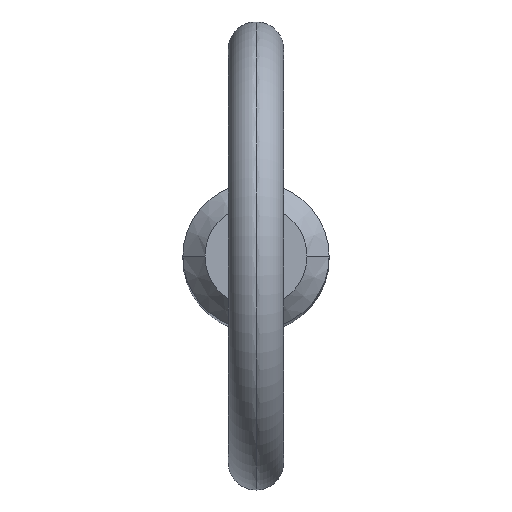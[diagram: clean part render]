
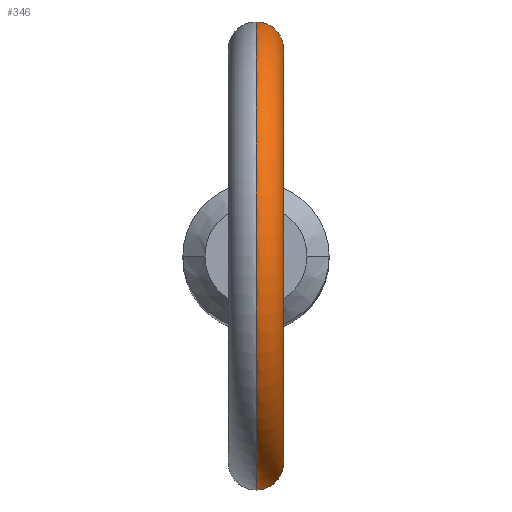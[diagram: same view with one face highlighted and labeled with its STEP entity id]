
A CAD part, top view. The second image highlights one B-rep face of the part: STEP entity #346.
In plain terms, the highlighted toroidal (fillet/blend) face has major radius 11.2 mm and minor radius 1.5 mm.
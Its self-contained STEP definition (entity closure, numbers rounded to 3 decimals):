
#10 = CARTESIAN_POINT ( 'NONE',  ( 0.41, 3.948, 69.274 ) ) ;
#23 = CARTESIAN_POINT ( 'NONE',  ( 0., 0., 81.3 ) ) ;
#32 = AXIS2_PLACEMENT_3D ( 'NONE', #163, #513, #477 ) ;
#35 = EDGE_CURVE ( 'NONE', #378, #371, #288, .T. ) ;
#45 = CARTESIAN_POINT ( 'NONE',  ( 0.782, -3.888, 69.437 ) ) ;
#53 = CARTESIAN_POINT ( 'NONE',  ( 1.236, 3.77, 69.829 ) ) ;
#59 = DIRECTION ( 'NONE',  ( 1., 0., 0. ) ) ;
#83 = ORIENTED_EDGE ( 'NONE', *, *, #148, .F. ) ;
#85 = CARTESIAN_POINT ( 'NONE',  ( 0.205, -3.965, 69.235 ) ) ;
#90 = CARTESIAN_POINT ( 'NONE',  ( 0.498, -3.935, 72.344 ) ) ;
#94 = CARTESIAN_POINT ( 'NONE',  ( 1.026, 3.831, 69.613 ) ) ;
#98 = CARTESIAN_POINT ( 'NONE',  ( 1.441, 3.695, 71.208 ) ) ;
#126 = CARTESIAN_POINT ( 'NONE',  ( 0.404, -3.946, 72.382 ) ) ;
#131 = CARTESIAN_POINT ( 'NONE',  ( 0.925, -3.858, 72.068 ) ) ;
#137 = EDGE_CURVE ( 'NONE', #371, #240, #426, .T. ) ;
#148 = EDGE_CURVE ( 'NONE', #214, #378, #491, .T. ) ;
#163 = CARTESIAN_POINT ( 'NONE',  ( 0., 0., 81.3 ) ) ;
#168 = CARTESIAN_POINT ( 'NONE',  ( 1.503, -3.669, 70.699 ) ) ;
#169 = CARTESIAN_POINT ( 'NONE',  ( 1.499, -3.671, 70.597 ) ) ;
#172 = TOROIDAL_SURFACE ( 'NONE', #296, 11.2, 1.5 ) ;
#174 = CARTESIAN_POINT ( 'NONE',  ( 1.499, 3.671, 70.594 ) ) ;
#181 = CARTESIAN_POINT ( 'NONE',  ( 0., 3.965, 72.447 ) ) ;
#200 = EDGE_CURVE ( 'NONE', #214, #240, #239, .T. ) ;
#205 = CARTESIAN_POINT ( 'NONE',  ( 1.291, -3.75, 71.583 ) ) ;
#208 = EDGE_LOOP ( 'NONE', ( #83, #447, #351, #221 ) ) ;
#209 = CARTESIAN_POINT ( 'NONE',  ( 1.471, -3.682, 70.394 ) ) ;
#212 = CARTESIAN_POINT ( 'NONE',  ( 1.291, 3.75, 71.584 ) ) ;
#214 = VERTEX_POINT ( 'NONE', #376 ) ;
#215 = CARTESIAN_POINT ( 'NONE',  ( 0.927, 3.858, 72.067 ) ) ;
#221 = ORIENTED_EDGE ( 'NONE', *, *, #35, .F. ) ;
#239 = CIRCLE ( 'NONE', #366, 12.7 ) ;
#240 = VERTEX_POINT ( 'NONE', #295 ) ;
#246 = CARTESIAN_POINT ( 'NONE',  ( 0.409, -3.948, 69.274 ) ) ;
#247 = FACE_OUTER_BOUND ( 'NONE', #208, .T. ) ;
#248 = CARTESIAN_POINT ( 'NONE',  ( 0., 3.965, 69.235 ) ) ;
#251 = CARTESIAN_POINT ( 'NONE',  ( 1.346, -3.73, 70.008 ) ) ;
#253 = CARTESIAN_POINT ( 'NONE',  ( 1.344, 3.731, 70.003 ) ) ;
#254 = CARTESIAN_POINT ( 'NONE',  ( 0.782, 3.888, 69.437 ) ) ;
#258 = CARTESIAN_POINT ( 'NONE',  ( 1.47, 3.682, 70.392 ) ) ;
#265 = CARTESIAN_POINT ( 'NONE',  ( 0., -3.965, 72.447 ) ) ;
#283 = CARTESIAN_POINT ( 'NONE',  ( 1.237, -3.77, 69.831 ) ) ;
#284 = CARTESIAN_POINT ( 'NONE',  ( 1.479, -3.679, 71.007 ) ) ;
#285 = CARTESIAN_POINT ( 'NONE',  ( 1.404, -3.708, 71.301 ) ) ;
#287 = CARTESIAN_POINT ( 'NONE',  ( 0., -3.965, 69.235 ) ) ;
#288 = CIRCLE ( 'NONE', #32, 9.7 ) ;
#290 = CARTESIAN_POINT ( 'NONE',  ( 0.77, -3.894, 72.2 ) ) ;
#291 = DIRECTION ( 'NONE',  ( 1., 0., 0. ) ) ;
#292 = CARTESIAN_POINT ( 'NONE',  ( 1.503, 3.669, 70.698 ) ) ;
#295 = CARTESIAN_POINT ( 'NONE',  ( 0., -3.965, 69.235 ) ) ;
#296 = AXIS2_PLACEMENT_3D ( 'NONE', #23, #59, #381 ) ;
#297 = CARTESIAN_POINT ( 'NONE',  ( 0.769, 3.894, 72.201 ) ) ;
#320 = CARTESIAN_POINT ( 'NONE',  ( 0.949, -3.851, 69.549 ) ) ;
#331 = CARTESIAN_POINT ( 'NONE',  ( 0., 0., 81.3 ) ) ;
#332 = CARTESIAN_POINT ( 'NONE',  ( 0.206, 3.965, 72.447 ) ) ;
#346 = ADVANCED_FACE ( 'NONE', ( #247 ), #172, .T. ) ;
#351 = ORIENTED_EDGE ( 'NONE', *, *, #137, .F. ) ;
#361 = CARTESIAN_POINT ( 'NONE',  ( 1.434, -3.697, 71.205 ) ) ;
#365 = CARTESIAN_POINT ( 'NONE',  ( 0.204, 3.965, 69.235 ) ) ;
#366 = AXIS2_PLACEMENT_3D ( 'NONE', #331, #291, #375 ) ;
#370 = CARTESIAN_POINT ( 'NONE',  ( 0., -3.965, 72.447 ) ) ;
#371 = VERTEX_POINT ( 'NONE', #265 ) ;
#375 = DIRECTION ( 'NONE',  ( 0., 0., -1. ) ) ;
#376 = CARTESIAN_POINT ( 'NONE',  ( 0., 3.965, 69.235 ) ) ;
#378 = VERTEX_POINT ( 'NONE', #181 ) ;
#381 = DIRECTION ( 'NONE',  ( 0., 0., -1. ) ) ;
#407 = CARTESIAN_POINT ( 'NONE',  ( 1.493, -3.673, 70.904 ) ) ;
#408 = CARTESIAN_POINT ( 'NONE',  ( 0.205, -3.961, 72.434 ) ) ;
#409 = CARTESIAN_POINT ( 'NONE',  ( 0.949, 3.851, 69.549 ) ) ;
#414 = CARTESIAN_POINT ( 'NONE',  ( 0.411, 3.948, 72.391 ) ) ;
#418 = CARTESIAN_POINT ( 'NONE',  ( 0., 3.965, 72.447 ) ) ;
#426 = B_SPLINE_CURVE_WITH_KNOTS ( 'NONE', 3,
 ( #370, #443, #408, #126, #90, #290, #131, #488, #205, #285, #361, #284, #407, #168, #169, #209, #446, #251, #283, #438, #320, #45, #479, #246, #85, #287 ),
 .UNSPECIFIED., .F., .F.,
 ( 4, 2, 2, 2, 2, 2, 2, 2, 2, 2, 2, 2, 4 ),
 ( 0.004, 0.005, 0.005, 0.005, 0.006, 0.006, 0.007, 0.007, 0.007, 0.008, 0.008, 0.008, 0.009 ),
 .UNSPECIFIED. ) ;
#438 = CARTESIAN_POINT ( 'NONE',  ( 1.028, -3.83, 69.615 ) ) ;
#443 = CARTESIAN_POINT ( 'NONE',  ( 0.102, -3.965, 72.447 ) ) ;
#446 = CARTESIAN_POINT ( 'NONE',  ( 1.447, -3.692, 70.293 ) ) ;
#447 = ORIENTED_EDGE ( 'NONE', *, *, #200, .T. ) ;
#449 = CARTESIAN_POINT ( 'NONE',  ( 1.488, 3.675, 71.005 ) ) ;
#450 = CARTESIAN_POINT ( 'NONE',  ( 1.447, 3.692, 70.293 ) ) ;
#477 = DIRECTION ( 'NONE',  ( 0., 0., -1. ) ) ;
#479 = CARTESIAN_POINT ( 'NONE',  ( 0.693, -3.905, 69.39 ) ) ;
#488 = CARTESIAN_POINT ( 'NONE',  ( 1.186, -3.786, 71.759 ) ) ;
#490 = CARTESIAN_POINT ( 'NONE',  ( 1.185, 3.786, 71.76 ) ) ;
#491 = B_SPLINE_CURVE_WITH_KNOTS ( 'NONE', 3,
 ( #248, #365, #10, #493, #254, #409, #94, #53, #253, #450, #258, #174, #292, #449, #98, #212, #490, #215, #297, #414, #332, #418 ),
 .UNSPECIFIED., .F., .F.,
 ( 4, 2, 2, 2, 2, 2, 2, 2, 2, 2, 4 ),
 ( 0.001, 0.001, 0.002, 0.002, 0.003, 0.003, 0.003, 0.004, 0.004, 0.005, 0.006 ),
 .UNSPECIFIED. ) ;
#493 = CARTESIAN_POINT ( 'NONE',  ( 0.691, 3.905, 69.389 ) ) ;
#513 = DIRECTION ( 'NONE',  ( 1., 0., 0. ) ) ;
